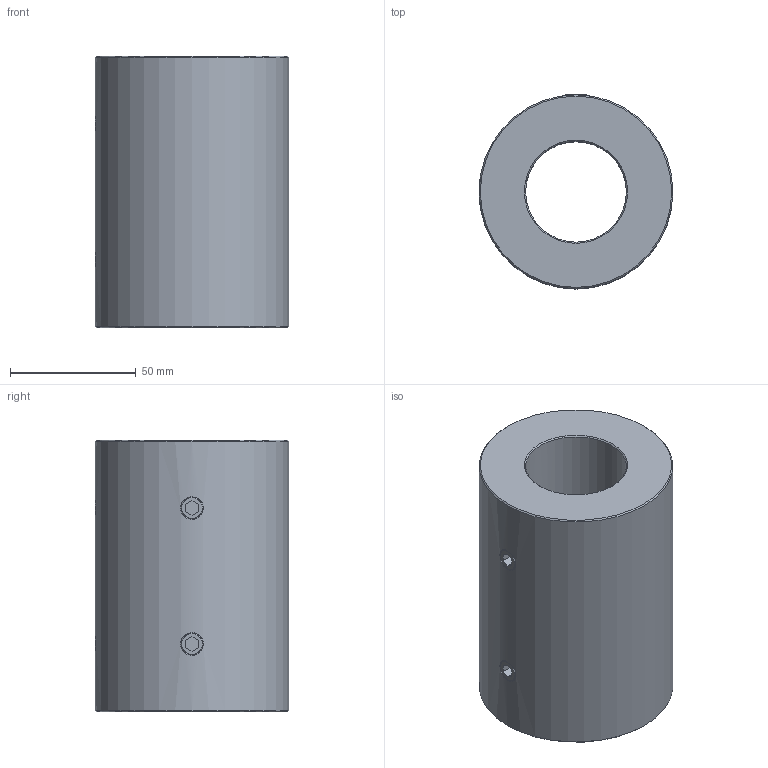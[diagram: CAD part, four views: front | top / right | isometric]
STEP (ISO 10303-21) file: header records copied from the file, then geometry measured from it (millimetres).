
FILE_DESCRIPTION (( 'STEP AP214' ), '1' );
FILE_NAME ('KBST1-VA-40.STEP', '2025-07-29T07:10:54', ( '' ), ( '' ), 'SwSTEP 2.0', 'SolidWorks 2024', '' );
FILE_SCHEMA (( 'AUTOMOTIVE_DESIGN' ));
Length unit declared in the file: millimetre
Products named in the file (1): KBST1-VA-40
Bounding box: 77 x 77 x 108 mm (x, y, z)
Volume: 367884.2 mm3; surface area: 50600.8 mm2
Topology: 5 solids, 5 shells, 80 faces, 178 edges, 104 vertices
Faces by surface type: plane 34, cone 28, cylinder 14, bspline 4
Full cylindrical faces by diameter (mm): 8.5 x4, 40 x1, 77 x1
Entity records: 8699 total; most frequent: CARTESIAN_POINT 6077, DIRECTION 338, ORIENTED_EDGE 312, EDGE_CURVE 156, AXIS2_PLACEMENT_3D 117, EDGE_LOOP 108, VECTOR 104, VERTEX_POINT 104
